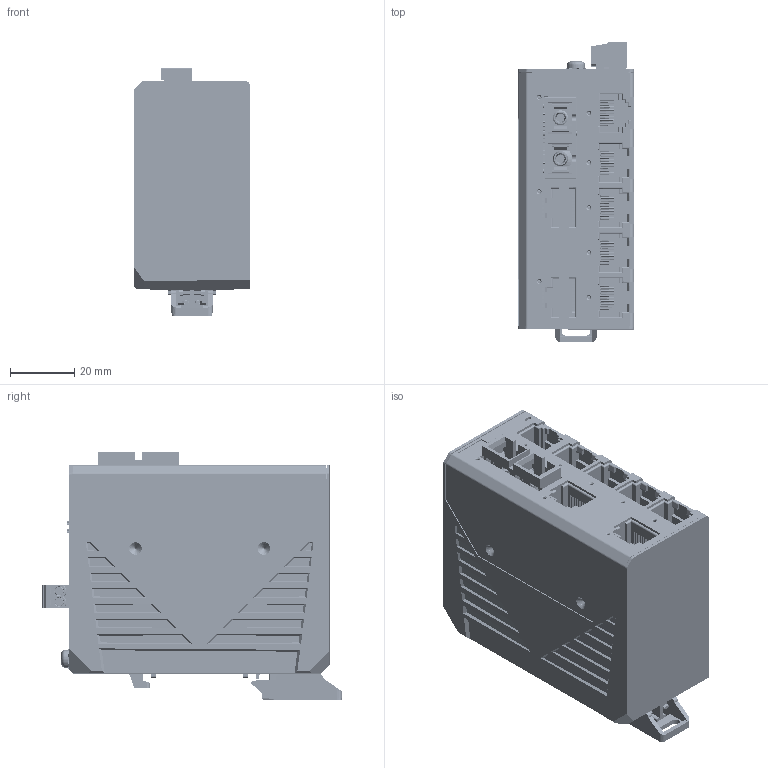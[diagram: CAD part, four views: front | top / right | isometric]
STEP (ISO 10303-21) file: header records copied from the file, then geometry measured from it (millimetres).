
FILE_DESCRIPTION((''),'2;1');
FILE_NAME('DIM_EDS-2008-EL-M-SC','2019-12-25T18:41:21',('Dacia_Yao'),('PTC'),'CREO PARAMETRIC BY PTC INC, 2018020','CREO PARAMETRIC BY PTC INC, 2018020','');
FILE_SCHEMA(('CONFIG_CONTROL_DESIGN'));
Products named in the file (1): DIM_EDS-2008-EL-M-SC
Bounding box: 36 x 93.25 x 76.9 mm (x, y, z)
Volume: 21749.1 mm3; surface area: 73967.4 mm2
Topology: 28 solids, 33 shells, 8764 faces, 25931 edges, 17081 vertices
Faces by surface type: plane 6859, cylinder 1546, cone 205, torus 74, bspline 40, extrusion 28, sphere 12
Entity records: 301190 total; most frequent: CARTESIAN_POINT 65249, ORIENTED_EDGE 51798, DIRECTION 45642, EDGE_CURVE 25903, VECTOR 21622, LINE 21594, VERTEX_POINT 17081, AXIS2_PLACEMENT_3D 12010
